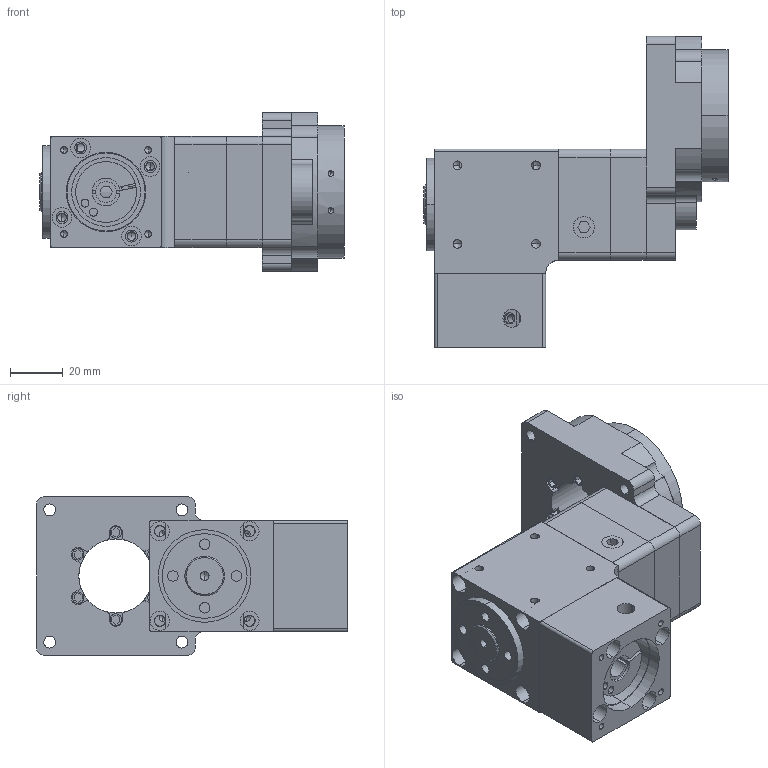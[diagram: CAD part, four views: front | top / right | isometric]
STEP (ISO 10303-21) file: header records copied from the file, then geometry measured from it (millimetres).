
FILE_DESCRIPTION (( 'STEP AP203' ), '1' );
FILE_NAME ('NTF060-M1-8-30-45.STEP', '2025-05-10T02:44:54', ( 'Windows User' ), ( 'P R C' ), 'SwSTEP 2.0', 'SolidWorks 2016', '' );
FILE_SCHEMA (( 'CONFIG_CONTROL_DESIGN' ));
Length unit declared in the file: millimetre
Products named in the file (12): 蹟譫; 蹟譫ㄗ2ㄘ; 標杶ㄗ1ㄘ; 綴楊擘ㄗ侂狟100Wㄘ; 6001_Rolling bearings 6001 GB 276-94; 61902_Rolling bearings 61902 GB 276-94; 6002_Rolling bearings 6002 GB 276-94; 褲极; NTF60-05-M1耀倰(M3饜侜督-8-24 30-3 4-3.5-45); 怀堤粣ㄗ等粣ㄘ; NTF060-M1-8-30-45; 输入轴
Assembly tree (11 placements, depth 2):
  NTF060-M1-8-30-45
    褲极
    怀堤粣ㄗ等粣ㄘ
    输入轴
    蹟譫
    蹟譫ㄗ2ㄘ
    標杶ㄗ1ㄘ
    綴楊擘ㄗ侂狟100Wㄘ
    6001_Rolling bearings 6001 GB 276-94
    6002_Rolling bearings 6002 GB 276-94
    61902_Rolling bearings 61902 GB 276-94
    NTF60-05-M1耀倰(M3饜侜督-8-24 30-3 4-3.5-45)
Bounding box: 115 x 117.6 x 60 mm (x, y, z)
Volume: 231625 mm3; surface area: 94180.6 mm2
Topology: 13 solids, 19 shells, 1616 faces, 4504 edges, 2922 vertices
Faces by surface type: plane 660, bspline 431, cylinder 419, cone 106
Entity records: 66140 total; most frequent: CARTESIAN_POINT 26041, ORIENTED_EDGE 8852, DIRECTION 6971, EDGE_CURVE 4426, VERTEX_POINT 2922, AXIS2_PLACEMENT_3D 2440, VECTOR 2091, LINE 2091
